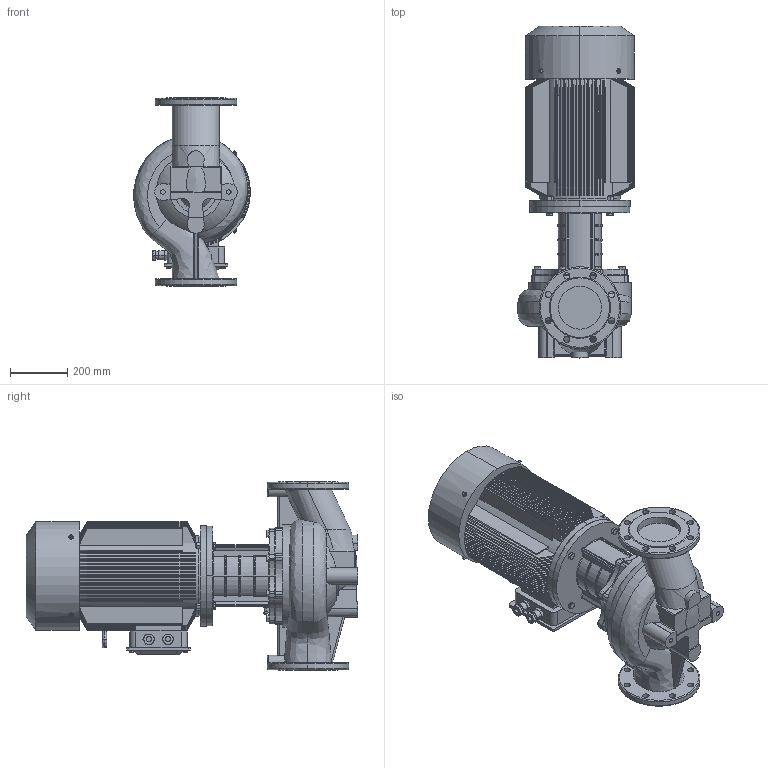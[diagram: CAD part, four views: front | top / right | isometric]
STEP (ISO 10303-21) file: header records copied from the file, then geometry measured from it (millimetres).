
FILE_DESCRIPTION (( 'STEP AP203' ), '1' );
FILE_NAME ('TD150-22G／4.STEP', '2026-09-07T02:59:39', ( '' ), ( '' ), 'SwSTEP 2.0', 'SolidWorks 2020', '' );
FILE_SCHEMA (( 'CONFIG_CONTROL_DESIGN' ));
Length unit declared in the file: millimetre
Products named in the file (1): TD150-22Gㄞ4
Bounding box: 407.24 x 1159 x 660 mm (x, y, z)
Volume: 99645829.9 mm3; surface area: 5060868.1 mm2
Topology: 1 solids, 9 shells, 1797 faces, 4552 edges, 2792 vertices
Faces by surface type: plane 694, cylinder 498, cone 411, torus 116, sphere 46, bspline 32
Entity records: 75596 total; most frequent: CARTESIAN_POINT 33326, ORIENTED_EDGE 9016, DIRECTION 8753, EDGE_CURVE 4508, AXIS2_PLACEMENT_3D 3496, VERTEX_POINT 2784, EDGE_LOOP 1896, ADVANCED_FACE 1797
